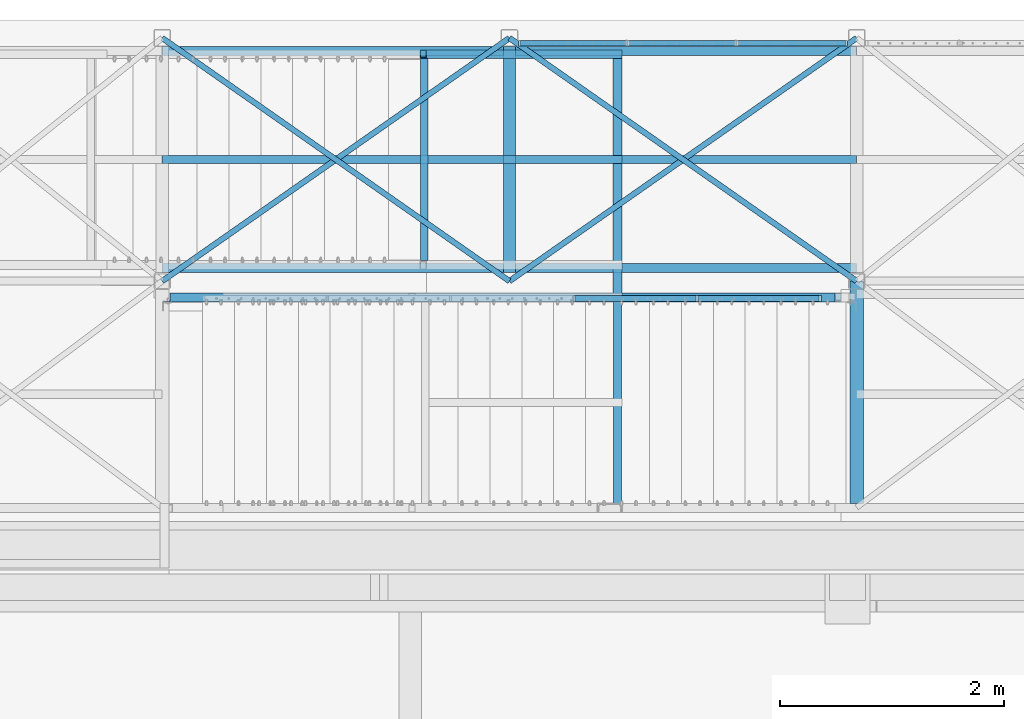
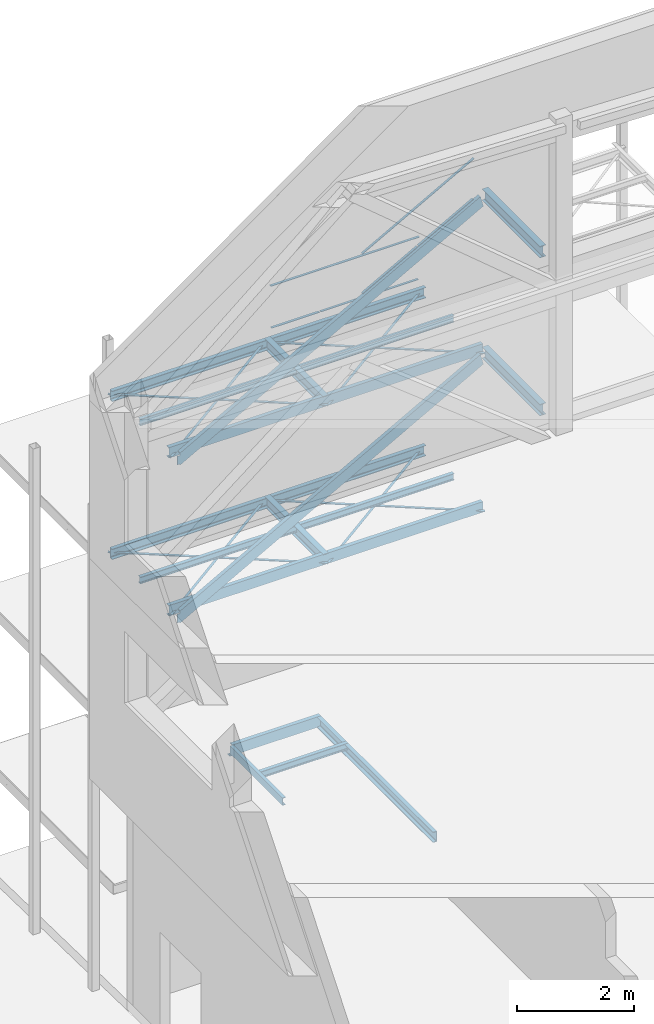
# One storey, part 32 of 78: 28 beams, 4 members, 30 elements without a shape of their own.
"""IFC2X3 building model written with IfcOpenShell, lengths in millimetres."""

from ifc_helpers import new_model, si_unit, frame, origin_with_axes, origin_2d_with_axis, place, context, subcontext, project, spatial, polyline, rectangle, i_section, l_section, u_section, outline, extrude, boolean, clip, halfspace, material, type_object, element, aggregate, save


model = new_model("IFC2X3")

# Units and contexts
model_context = context("Model", 3, precision=1e-05, world=origin_with_axes())
body_context = subcontext(model_context, "Body", "Model", "MODEL_VIEW")
ifc_project = project(units=[si_unit("LENGTHUNIT", "METRE", prefix="MILLI"), si_unit("AREAUNIT", "SQUARE_METRE"), si_unit("VOLUMEUNIT", "CUBIC_METRE"), si_unit("MASSUNIT", "GRAM", prefix="KILO"), si_unit("TIMEUNIT", "SECOND"), si_unit("PLANEANGLEUNIT", "RADIAN"), si_unit("SOLIDANGLEUNIT", "STERADIAN"), si_unit("THERMODYNAMICTEMPERATUREUNIT", "DEGREE_CELSIUS"), si_unit("LUMINOUSINTENSITYUNIT", "LUMEN")], contexts=[model_context])

# Site, building, storey
site_placement = place(None, origin_with_axes())
site = spatial("IfcSite", under=ifc_project, at=site_placement, Name="Site", CompositionType="ELEMENT")
building_placement = place(site_placement, origin_with_axes())
building = spatial("IfcBuilding", under=site, at=building_placement, Name="Undefined", CompositionType="ELEMENT")
storey_placement = place(building_placement, origin_with_axes())
storey = spatial("IfcBuildingStorey", under=building, at=storey_placement, Name="Undefined", CompositionType="ELEMENT", Elevation=0.0)

# Assembly, beam
assembly_1_placement = place(storey_placement, origin_with_axes())
assembly_1 = element("IfcElementAssembly", 1, at=assembly_1_placement, inside=storey, Name="POUTRE", AssemblyPlace="NOTDEFINED", PredefinedType="RIGID_FRAME")
ifc_material_1 = material(Name="STEEL/S275JR")
beam_type_1 = type_object("IfcBeamType", Name="UPN220", PredefinedType="NOTDEFINED")
beam_1_placement = place(assembly_1_placement, frame((-636.429999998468, 32733.0000000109, 148365.040000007), z_axis=(0.0, 0.0, 1.0), x_axis=(0.0, -1.0, 0.0)))
beam_1 = element("IfcBeam", 2, at=beam_1_placement, type_object=beam_type_1, material=ifc_material_1, Name="POUTRE", ObjectType="UPN220", context=body_context, shape_type="SweptSolid", body=[
    extrude(u_section(Depth=220.0, FlangeWidth=80.0, WebThickness=9.0, FlangeThickness=12.5, FilletRadius=12.5, EdgeRadius=6.5, FlangeSlope=0.0798299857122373, at=origin_2d_with_axis()), frame((3970.00000005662, 0.0, 0.0), z_axis=(-1.0, 0.0, 0.0), x_axis=(0.0, -1.0, 0.0)), (0.0, 0.0, 1.0), 3970.0),
])
aggregate(assembly_1, [beam_1])

assembly_2_placement = place(storey_placement, origin_with_axes())
assembly_2 = element("IfcElementAssembly", 3, at=assembly_2_placement, inside=storey, AssemblyPlace="NOTDEFINED", PredefinedType="RIGID_FRAME")
ifc_material_2 = material(Name="STEEL/S235JR")
beam_2_placement = place(assembly_2_placement, frame((-596.430000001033, 32773.0000000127, 148365.039999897), z_axis=(0.0, 0.0, 1.0), x_axis=(-1.0, 0.0, 0.0)))
beam_2 = element("IfcBeam", 4, at=beam_2_placement, type_object=beam_type_1, material=ifc_material_2, Name="LIMON", ObjectType="UPN220", context=body_context, shape_type="Clipping", body=[
    clip(extrude(u_section(Depth=220.0, FlangeWidth=80.0, WebThickness=9.0, FlangeThickness=12.5, FilletRadius=12.5, EdgeRadius=6.5, FlangeSlope=0.0798299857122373, at=origin_2d_with_axis()), frame((1804.05628894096, 0.0, 0.0), z_axis=(-1.0, 0.0, 0.0), x_axis=(0.0, -1.0, 0.0)), (0.0, 0.0, 1.0), 1804.06), halfspace(frame((1746.3949841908, 8.99308361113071e-09, 109.999999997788), z_axis=(-0.967635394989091, 0.0, -0.252352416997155), x_axis=(0.0, -1.0, 0.0)), True)),
])
aggregate(assembly_2, [beam_2])

assembly_3_placement = place(storey_placement, origin_with_axes())
assembly_3 = element("IfcElementAssembly", 5, at=assembly_3_placement, inside=storey, Name="POUTRE", AssemblyPlace="NOTDEFINED", PredefinedType="RIGID_FRAME")
beam_3_placement = place(assembly_3_placement, frame((1498.57, 30863.0, 156560.04), z_axis=(0.0, 0.0, 1.0), x_axis=(-1.0, 0.0, 0.0)))
beam_3 = element("IfcBeam", 6, at=beam_3_placement, type_object=beam_type_1, material=ifc_material_1, Name="POUTRE", ObjectType="UPN220", context=body_context, shape_type="SweptSolid", body=[
    extrude(u_section(Depth=220.0, FlangeWidth=80.0, WebThickness=9.0, FlangeThickness=12.5, FilletRadius=12.5, EdgeRadius=6.5, FlangeSlope=0.0798299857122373, at=origin_2d_with_axis()), frame((6200.0, 0.0, 0.0), z_axis=(-1.0, 0.0, 0.0), x_axis=(0.0, -1.0, 0.0)), (0.0, 0.0, 1.0), 6200.0),
])
aggregate(assembly_3, [beam_3])

assembly_4_placement = place(storey_placement, origin_with_axes())
assembly_4 = element("IfcElementAssembly", 7, at=assembly_4_placement, inside=storey, Name="POUTRE", AssemblyPlace="NOTDEFINED", PredefinedType="RIGID_FRAME")
beam_4_placement = place(assembly_4_placement, frame((-1601.43, 32803.0, 156560.04), z_axis=(0.0, 0.0, 1.0), x_axis=(1.0, 0.0, 0.0)))
beam_4 = element("IfcBeam", 8, at=beam_4_placement, type_object=beam_type_1, material=ifc_material_1, Name="POUTRE", ObjectType="UPN220", context=body_context, shape_type="SweptSolid", body=[
    extrude(u_section(Depth=220.0, FlangeWidth=80.0, WebThickness=9.0, FlangeThickness=12.5, FilletRadius=12.5, EdgeRadius=6.5, FlangeSlope=0.0798299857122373, at=origin_2d_with_axis()), frame((3100.0, 0.0, 0.0), z_axis=(-1.0, 0.0, 0.0), x_axis=(0.0, -1.0, 0.0)), (0.0, 0.0, 1.0), 3100.0),
])
aggregate(assembly_4, [beam_4])

assembly_5_placement = place(storey_placement, origin_with_axes())
assembly_5 = element("IfcElementAssembly", 9, at=assembly_5_placement, inside=storey, Name="POUTRE", AssemblyPlace="NOTDEFINED", PredefinedType="RIGID_FRAME")
beam_5_placement = place(assembly_5_placement, frame((-4701.43, 32803.0, 156560.04), z_axis=(0.0, 0.0, 1.0), x_axis=(1.0, 0.0, 0.0)))
beam_5 = element("IfcBeam", 10, at=beam_5_placement, type_object=beam_type_1, material=ifc_material_1, Name="POUTRE", ObjectType="UPN220", context=body_context, shape_type="SweptSolid", body=[
    extrude(u_section(Depth=220.0, FlangeWidth=80.0, WebThickness=9.0, FlangeThickness=12.5, FilletRadius=12.5, EdgeRadius=6.5, FlangeSlope=0.0798299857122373, at=origin_2d_with_axis()), frame((3100.0, 0.0, 0.0), z_axis=(-1.0, 0.0, 0.0), x_axis=(0.0, -1.0, 0.0)), (0.0, 0.0, 1.0), 3100.0),
])
aggregate(assembly_5, [beam_5])

assembly_6_placement = place(storey_placement, origin_with_axes())
assembly_6 = element("IfcElementAssembly", 11, at=assembly_6_placement, inside=storey, Name="POUTRE", AssemblyPlace="NOTDEFINED", PredefinedType="RIGID_FRAME")
beam_6_placement = place(assembly_6_placement, frame((1498.57, 30863.0, 153260.04), z_axis=(0.0, 0.0, 1.0), x_axis=(-1.0, 0.0, 0.0)))
beam_6 = element("IfcBeam", 12, at=beam_6_placement, type_object=beam_type_1, material=ifc_material_1, Name="POUTRE", ObjectType="UPN220", context=body_context, shape_type="SweptSolid", body=[
    extrude(u_section(Depth=220.0, FlangeWidth=80.0, WebThickness=9.0, FlangeThickness=12.5, FilletRadius=12.5, EdgeRadius=6.5, FlangeSlope=0.0798299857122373, at=origin_2d_with_axis()), frame((6200.0, 0.0, 0.0), z_axis=(-1.0, 0.0, 0.0), x_axis=(0.0, -1.0, 0.0)), (0.0, 0.0, 1.0), 6200.0),
])
aggregate(assembly_6, [beam_6])

assembly_7_placement = place(storey_placement, origin_with_axes())
assembly_7 = element("IfcElementAssembly", 13, at=assembly_7_placement, inside=storey, Name="STAB", AssemblyPlace="NOTDEFINED", PredefinedType="RIGID_FRAME")
beam_7_placement = place(assembly_7_placement, frame((-1601.43, 32803.0, 153260.04), z_axis=(0.0, 0.0, 1.0), x_axis=(1.0, 0.0, 0.0)))
beam_7 = element("IfcBeam", 14, at=beam_7_placement, type_object=beam_type_1, material=ifc_material_1, Name="POUTRE", ObjectType="UPN220", context=body_context, shape_type="SweptSolid", body=[
    extrude(u_section(Depth=220.0, FlangeWidth=80.0, WebThickness=9.0, FlangeThickness=12.5, FilletRadius=12.5, EdgeRadius=6.5, FlangeSlope=0.0798299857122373, at=origin_2d_with_axis()), frame((3100.0, 0.0, 0.0), z_axis=(-1.0, 0.0, 0.0), x_axis=(0.0, -1.0, 0.0)), (0.0, 0.0, 1.0), 3100.0),
])
aggregate(assembly_7, [beam_7])

assembly_8_placement = place(storey_placement, origin_with_axes())
assembly_8 = element("IfcElementAssembly", 15, at=assembly_8_placement, inside=storey, Name="STAB", AssemblyPlace="NOTDEFINED", PredefinedType="RIGID_FRAME")
beam_8_placement = place(assembly_8_placement, frame((-4701.43, 32803.0, 153260.04), z_axis=(0.0, 0.0, 1.0), x_axis=(1.0, 0.0, 0.0)))
beam_8 = element("IfcBeam", 16, at=beam_8_placement, type_object=beam_type_1, material=ifc_material_1, Name="POUTRE", ObjectType="UPN220", context=body_context, shape_type="SweptSolid", body=[
    extrude(u_section(Depth=220.0, FlangeWidth=80.0, WebThickness=9.0, FlangeThickness=12.5, FilletRadius=12.5, EdgeRadius=6.5, FlangeSlope=0.0798299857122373, at=origin_2d_with_axis()), frame((3100.0, 0.0, 0.0), z_axis=(-1.0, 0.0, 0.0), x_axis=(0.0, -1.0, 0.0)), (0.0, 0.0, 1.0), 3100.0),
])
aggregate(assembly_8, [beam_8])

# Assembly, beams
assembly_9_placement = place(storey_placement, origin_with_axes())
assembly_9 = element("IfcElementAssembly", 17, at=assembly_9_placement, inside=storey, Name="MAIN_COURANTE", AssemblyPlace="NOTDEFINED", PredefinedType="RIGID_FRAME")
beam_type_2 = type_object("IfcBeamType", Name="PL10*50", PredefinedType="NOTDEFINED")
beam_9_placement = place(assembly_9_placement, frame((-1521.43, 32873.0, 156815.04), z_axis=(0.0, -1.0, 0.0), x_axis=(1.0, 0.0, 0.0)))
solid_1 = boolean("DIFFERENCE", boolean("DIFFERENCE", extrude(rectangle(XDim=20.0, YDim=50.0, at=origin_2d_with_axis()), frame((10.0000000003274, 885.0, -2.18278728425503e-10), z_axis=(0.0, -1.0, 0.0), x_axis=(1.0, 0.0, 0.0)), (0.0, 0.0, 1.0), 1190.0), halfspace(frame((10.0000000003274, 875.0, -2.18278728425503e-11), z_axis=(0.0, 1.0, 0.0), x_axis=(0.0, 0.0, -1.0)), False)), halfspace(frame((-999.999999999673, -305.0, -2.18278728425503e-10), z_axis=(0.0, 1.0, 0.0), x_axis=(0.0, 0.0, -1.0)), True))
solid_2 = boolean("DIFFERENCE", boolean("DIFFERENCE", extrude(rectangle(XDim=20.0, YDim=50.0, at=origin_2d_with_axis()), frame((983.333333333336, 885.0, 0.0), z_axis=(0.0, -1.0, 0.0), x_axis=(1.0, 0.0, 0.0)), (0.0, 0.0, 1.0), 1190.0), halfspace(frame((983.333333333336, 875.0, 0.0), z_axis=(0.0, 1.0, 0.0), x_axis=(0.0, 0.0, -1.0)), False)), halfspace(frame((-26.6666666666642, -305.0, 0.0), z_axis=(0.0, 1.0, 0.0), x_axis=(0.0, 0.0, -1.0)), True))
solid_3 = boolean("DIFFERENCE", boolean("DIFFERENCE", extrude(rectangle(XDim=20.0, YDim=50.0, at=origin_2d_with_axis()), frame((1956.66666666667, 885.0, 0.0), z_axis=(0.0, -1.0, 0.0), x_axis=(1.0, 0.0, 0.0)), (0.0, 0.0, 1.0), 1190.0), halfspace(frame((1956.66666666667, 875.0, 0.0), z_axis=(0.0, 1.0, 0.0), x_axis=(0.0, 0.0, -1.0)), False)), halfspace(frame((946.666666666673, -305.0, 0.0), z_axis=(0.0, 1.0, 0.0), x_axis=(0.0, 0.0, -1.0)), True))
solid_4 = boolean("DIFFERENCE", boolean("DIFFERENCE", extrude(rectangle(XDim=20.0, YDim=50.0, at=origin_2d_with_axis()), frame((2930.00000000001, 885.0, 0.0), z_axis=(0.0, -1.0, 0.0), x_axis=(1.0, 0.0, 0.0)), (0.0, 0.0, 1.0), 1190.0), halfspace(frame((2930.00000000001, 875.0, 0.0), z_axis=(0.0, 1.0, 0.0), x_axis=(0.0, 0.0, -1.0)), False)), halfspace(frame((1920.00000000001, -305.0, 0.0), z_axis=(0.0, 1.0, 0.0), x_axis=(0.0, 0.0, -1.0)), True))
beam_9 = element("IfcBeam", 18, at=beam_9_placement, type_object=beam_type_2, material=ifc_material_2, Name="LISSE", ObjectType="PL10*50", context=body_context, shape_type="CSG", body=[
    boolean("DIFFERENCE", boolean("DIFFERENCE", boolean("DIFFERENCE", boolean("DIFFERENCE", extrude(rectangle(XDim=10.0, YDim=50.0, at=origin_2d_with_axis()), frame((2940.00000000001, 0.0, 0.0), z_axis=(-1.0, 0.0, 0.0), x_axis=(0.0, -1.0, 0.0)), (0.0, 0.0, 1.0), 2940.0), solid_1), solid_2), solid_3), solid_4),
])
beam_10_placement = place(assembly_9_placement, frame((1418.57000000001, 32873.0, 157695.04), z_axis=(0.0, -1.0, 0.0), x_axis=(-1.0, 0.0, 0.0)))
beam_10 = element("IfcBeam", 19, at=beam_10_placement, type_object=beam_type_2, material=ifc_material_2, Name="MAIN_COURANTE", ObjectType="PL10*50", context=body_context, shape_type="SweptSolid", body=[
    extrude(rectangle(XDim=10.0, YDim=50.0, at=origin_2d_with_axis()), frame((2940.00000000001, 0.0, 0.0), z_axis=(-1.0, 0.0, 0.0), x_axis=(0.0, -1.0, 0.0)), (0.0, 0.0, 1.0), 2940.0),
])
aggregate(assembly_9, [beam_9, beam_10])

# Assembly, beam
assembly_10_placement = place(storey_placement, origin_with_axes())
assembly_10 = element("IfcElementAssembly", 20, at=assembly_10_placement, inside=storey, Name="STAB", AssemblyPlace="NOTDEFINED", PredefinedType="RIGID_FRAME")
beam_type_3 = type_object("IfcBeamType", Name="L50*5", PredefinedType="NOTDEFINED")
beam_11_placement = place(assembly_10_placement, frame((1498.57000000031, 30747.9999999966, 156505.04), z_axis=(0.0, 0.0, -1.0), x_axis=(-0.8192319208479, 0.573462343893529, 0.0)))
beam_11 = element("IfcBeam", 21, at=beam_11_placement, type_object=beam_type_3, material=ifc_material_2, Name="STAB", ObjectType="L50*5", context=body_context, shape_type="SweptSolid", body=[
    extrude(l_section(Depth=50.0, Width=50.0, Thickness=5.0, FilletRadius=7.0, EdgeRadius=3.5, at=origin_2d_with_axis()), frame((3784.03224088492, 4.20111971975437e-13, 0.0), z_axis=(-1.0, 0.0, 0.0), x_axis=(0.0, -1.0, 0.0)), (0.0, 0.0, 1.0), 3784.03),
])
aggregate(assembly_10, [beam_11])

assembly_11_placement = place(storey_placement, origin_with_axes())
assembly_11 = element("IfcElementAssembly", 22, at=assembly_11_placement, inside=storey, Name="STAB", AssemblyPlace="NOTDEFINED", PredefinedType="RIGID_FRAME")
beam_12_placement = place(assembly_11_placement, frame((1498.56999999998, 32918.0, 156505.04), z_axis=(0.0, 0.0, -1.0), x_axis=(-0.8192319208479, -0.573462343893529, 0.0)))
beam_12 = element("IfcBeam", 23, at=beam_12_placement, type_object=beam_type_3, material=ifc_material_2, Name="STAB", ObjectType="L50*5", context=body_context, shape_type="SweptSolid", body=[
    extrude(l_section(Depth=50.0, Width=50.0, Thickness=5.0, FilletRadius=7.0, EdgeRadius=3.5, at=origin_2d_with_axis()), frame((3784.03224088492, 4.20111971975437e-13, 0.0), z_axis=(-1.0, 0.0, 0.0), x_axis=(0.0, -1.0, 0.0)), (0.0, 0.0, 1.0), 3784.03),
])
aggregate(assembly_11, [beam_12])

assembly_12_placement = place(storey_placement, origin_with_axes())
assembly_12 = element("IfcElementAssembly", 24, at=assembly_12_placement, inside=storey, Name="STAB", AssemblyPlace="NOTDEFINED", PredefinedType="RIGID_FRAME")
beam_13_placement = place(assembly_12_placement, frame((-1601.42999999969, 30747.9999999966, 156505.04), z_axis=(0.0, 0.0, -1.0), x_axis=(-0.8192319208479, 0.573462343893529, 0.0)))
beam_13 = element("IfcBeam", 25, at=beam_13_placement, type_object=beam_type_3, material=ifc_material_2, Name="STAB", ObjectType="L50*5", context=body_context, shape_type="SweptSolid", body=[
    extrude(l_section(Depth=50.0, Width=50.0, Thickness=5.0, FilletRadius=7.0, EdgeRadius=3.5, at=origin_2d_with_axis()), frame((3784.03224088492, 4.20111971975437e-13, 0.0), z_axis=(-1.0, 0.0, 0.0), x_axis=(0.0, -1.0, 0.0)), (0.0, 0.0, 1.0), 3784.03),
])
aggregate(assembly_12, [beam_13])

assembly_13_placement = place(storey_placement, origin_with_axes())
assembly_13 = element("IfcElementAssembly", 26, at=assembly_13_placement, inside=storey, Name="STAB", AssemblyPlace="NOTDEFINED", PredefinedType="RIGID_FRAME")
beam_14_placement = place(assembly_13_placement, frame((-1601.43000000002, 32918.0, 156505.04), z_axis=(0.0, 0.0, -1.0), x_axis=(-0.8192319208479, -0.573462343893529, 0.0)))
beam_14 = element("IfcBeam", 27, at=beam_14_placement, type_object=beam_type_3, material=ifc_material_2, Name="STAB", ObjectType="L50*5", context=body_context, shape_type="SweptSolid", body=[
    extrude(l_section(Depth=50.0, Width=50.0, Thickness=5.0, FilletRadius=7.0, EdgeRadius=3.5, at=origin_2d_with_axis()), frame((3784.03224088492, 4.20111971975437e-13, 0.0), z_axis=(-1.0, 0.0, 0.0), x_axis=(0.0, -1.0, 0.0)), (0.0, 0.0, 1.0), 3784.03),
])
aggregate(assembly_13, [beam_14])

assembly_14_placement = place(storey_placement, origin_with_axes())
assembly_14 = element("IfcElementAssembly", 28, at=assembly_14_placement, inside=storey, Name="STAB", AssemblyPlace="NOTDEFINED", PredefinedType="RIGID_FRAME")
beam_15_placement = place(assembly_14_placement, frame((1498.57000000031, 30747.9999999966, 153205.04), z_axis=(0.0, 0.0, -1.0), x_axis=(-0.8192319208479, 0.573462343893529, 0.0)))
beam_15 = element("IfcBeam", 29, at=beam_15_placement, type_object=beam_type_3, material=ifc_material_2, Name="STAB", ObjectType="L50*5", context=body_context, shape_type="SweptSolid", body=[
    extrude(l_section(Depth=50.0, Width=50.0, Thickness=5.0, FilletRadius=7.0, EdgeRadius=3.5, at=origin_2d_with_axis()), frame((3784.03224088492, 4.20111971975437e-13, 0.0), z_axis=(-1.0, 0.0, 0.0), x_axis=(0.0, -1.0, 0.0)), (0.0, 0.0, 1.0), 3784.03),
])
aggregate(assembly_14, [beam_15])

assembly_15_placement = place(storey_placement, origin_with_axes())
assembly_15 = element("IfcElementAssembly", 30, at=assembly_15_placement, inside=storey, Name="STAB", AssemblyPlace="NOTDEFINED", PredefinedType="RIGID_FRAME")
beam_16_placement = place(assembly_15_placement, frame((1498.56999999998, 32918.0, 153205.04), z_axis=(0.0, 0.0, -1.0), x_axis=(-0.8192319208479, -0.573462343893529, 0.0)))
beam_16 = element("IfcBeam", 31, at=beam_16_placement, type_object=beam_type_3, material=ifc_material_2, Name="STAB", ObjectType="L50*5", context=body_context, shape_type="SweptSolid", body=[
    extrude(l_section(Depth=50.0, Width=50.0, Thickness=5.0, FilletRadius=7.0, EdgeRadius=3.5, at=origin_2d_with_axis()), frame((3784.03224088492, 4.20111971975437e-13, 0.0), z_axis=(-1.0, 0.0, 0.0), x_axis=(0.0, -1.0, 0.0)), (0.0, 0.0, 1.0), 3784.03),
])
aggregate(assembly_15, [beam_16])

assembly_16_placement = place(storey_placement, origin_with_axes())
assembly_16 = element("IfcElementAssembly", 32, at=assembly_16_placement, inside=storey, Name="STAB", AssemblyPlace="NOTDEFINED", PredefinedType="RIGID_FRAME")
beam_17_placement = place(assembly_16_placement, frame((-1601.42999999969, 30747.9999999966, 153205.04), z_axis=(0.0, 0.0, -1.0), x_axis=(-0.8192319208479, 0.573462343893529, 0.0)))
beam_17 = element("IfcBeam", 33, at=beam_17_placement, type_object=beam_type_3, material=ifc_material_2, Name="STAB", ObjectType="L50*5", context=body_context, shape_type="SweptSolid", body=[
    extrude(l_section(Depth=50.0, Width=50.0, Thickness=5.0, FilletRadius=7.0, EdgeRadius=3.5, at=origin_2d_with_axis()), frame((3784.03224088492, 4.20111971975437e-13, 0.0), z_axis=(-1.0, 0.0, 0.0), x_axis=(0.0, -1.0, 0.0)), (0.0, 0.0, 1.0), 3784.03),
])
aggregate(assembly_16, [beam_17])

assembly_17_placement = place(storey_placement, origin_with_axes())
assembly_17 = element("IfcElementAssembly", 34, at=assembly_17_placement, inside=storey, Name="STAB", AssemblyPlace="NOTDEFINED", PredefinedType="RIGID_FRAME")
beam_18_placement = place(assembly_17_placement, frame((-1601.43000000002, 32918.0, 153205.04), z_axis=(0.0, 0.0, -1.0), x_axis=(-0.8192319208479, -0.573462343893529, 0.0)))
beam_18 = element("IfcBeam", 35, at=beam_18_placement, type_object=beam_type_3, material=ifc_material_2, Name="STAB", ObjectType="L50*5", context=body_context, shape_type="SweptSolid", body=[
    extrude(l_section(Depth=50.0, Width=50.0, Thickness=5.0, FilletRadius=7.0, EdgeRadius=3.5, at=origin_2d_with_axis()), frame((3784.03224088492, 4.20111971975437e-13, 0.0), z_axis=(-1.0, 0.0, 0.0), x_axis=(0.0, -1.0, 0.0)), (0.0, 0.0, 1.0), 3784.03),
])
aggregate(assembly_17, [beam_18])

assembly_18_placement = place(storey_placement, origin_with_axes())
assembly_18 = element("IfcElementAssembly", 36, at=assembly_18_placement, inside=storey, Name="POUTRE", AssemblyPlace="NOTDEFINED", PredefinedType="RIGID_FRAME")
beam_type_4 = type_object("IfcBeamType", Name="IPE140", PredefinedType="NOTDEFINED")
beam_19_placement = place(assembly_18_placement, frame((-2343.9299999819, 31833.0, 148405.039999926), z_axis=(0.0, 0.0, -1.0), x_axis=(1.0, 0.0, 0.0)))
beam_19 = element("IfcBeam", 37, at=beam_19_placement, type_object=beam_type_4, material=ifc_material_1, Name="POUTRE", ObjectType="IPE140", context=body_context, shape_type="SweptSolid", body=[
    extrude(i_section(OverallWidth=73.0, OverallDepth=140.0, WebThickness=4.699999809, FlangeThickness=6.900000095, FilletRadius=7.0, at=origin_2d_with_axis()), frame((1747.4999999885, 0.0, 0.0), z_axis=(-1.0, 0.0, 0.0), x_axis=(0.0, -1.0, 0.0)), (0.0, 0.0, 1.0), 1747.5),
])
aggregate(assembly_18, [beam_19])

assembly_19_placement = place(storey_placement, origin_with_axes())
assembly_19 = element("IfcElementAssembly", 38, at=assembly_19_placement, inside=storey, Name="POUTRE", AssemblyPlace="NOTDEFINED", PredefinedType="RIGID_FRAME")
beam_20_placement = place(assembly_19_placement, frame((-1601.43, 31833.0, 156600.04), z_axis=(0.0, 0.0, 1.0), x_axis=(-1.0, 0.0, 0.0)))
beam_20 = element("IfcBeam", 39, at=beam_20_placement, type_object=beam_type_4, material=ifc_material_1, Name="POUTRE", ObjectType="IPE140", context=body_context, shape_type="SweptSolid", body=[
    extrude(i_section(OverallWidth=73.0, OverallDepth=140.0, WebThickness=4.699999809, FlangeThickness=6.900000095, FilletRadius=7.0, at=origin_2d_with_axis()), frame((3100.0, 0.0, 0.0), z_axis=(-1.0, 0.0, 0.0), x_axis=(0.0, -1.0, 0.0)), (0.0, 0.0, 1.0), 3100.0),
])
aggregate(assembly_19, [beam_20])

assembly_20_placement = place(storey_placement, origin_with_axes())
assembly_20 = element("IfcElementAssembly", 40, at=assembly_20_placement, inside=storey, Name="POUTRE", AssemblyPlace="NOTDEFINED", PredefinedType="RIGID_FRAME")
beam_21_placement = place(assembly_20_placement, frame((1498.57, 31833.0, 156600.04), z_axis=(0.0, 0.0, 1.0), x_axis=(-1.0, 0.0, 0.0)))
beam_21 = element("IfcBeam", 41, at=beam_21_placement, type_object=beam_type_4, material=ifc_material_1, Name="POUTRE", ObjectType="IPE140", context=body_context, shape_type="SweptSolid", body=[
    extrude(i_section(OverallWidth=73.0, OverallDepth=140.0, WebThickness=4.699999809, FlangeThickness=6.900000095, FilletRadius=7.0, at=origin_2d_with_axis()), frame((3100.0, 0.0, 0.0), z_axis=(-1.0, 0.0, 0.0), x_axis=(0.0, -1.0, 0.0)), (0.0, 0.0, 1.0), 3100.0),
])
aggregate(assembly_20, [beam_21])

assembly_21_placement = place(storey_placement, origin_with_axes())
assembly_21 = element("IfcElementAssembly", 42, at=assembly_21_placement, inside=storey, Name="POUTRE", AssemblyPlace="NOTDEFINED", PredefinedType="RIGID_FRAME")
beam_22_placement = place(assembly_21_placement, frame((-1601.43, 31833.0, 153300.04), z_axis=(0.0, 0.0, 1.0), x_axis=(-1.0, 0.0, 0.0)))
beam_22 = element("IfcBeam", 43, at=beam_22_placement, type_object=beam_type_4, material=ifc_material_1, Name="POUTRE", ObjectType="IPE140", context=body_context, shape_type="SweptSolid", body=[
    extrude(i_section(OverallWidth=73.0, OverallDepth=140.0, WebThickness=4.699999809, FlangeThickness=6.900000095, FilletRadius=7.0, at=origin_2d_with_axis()), frame((3100.0, 0.0, 0.0), z_axis=(-1.0, 0.0, 0.0), x_axis=(0.0, -1.0, 0.0)), (0.0, 0.0, 1.0), 3100.0),
])
aggregate(assembly_21, [beam_22])

assembly_22_placement = place(storey_placement, origin_with_axes())
assembly_22 = element("IfcElementAssembly", 44, at=assembly_22_placement, inside=storey, Name="POUTRE", AssemblyPlace="NOTDEFINED", PredefinedType="RIGID_FRAME")
beam_23_placement = place(assembly_22_placement, frame((1498.57, 31833.0, 153300.04), z_axis=(0.0, 0.0, 1.0), x_axis=(-1.0, 0.0, 0.0)))
beam_23 = element("IfcBeam", 45, at=beam_23_placement, type_object=beam_type_4, material=ifc_material_1, Name="POUTRE", ObjectType="IPE140", context=body_context, shape_type="SweptSolid", body=[
    extrude(i_section(OverallWidth=73.0, OverallDepth=140.0, WebThickness=4.699999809, FlangeThickness=6.900000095, FilletRadius=7.0, at=origin_2d_with_axis()), frame((3100.0, 0.0, 0.0), z_axis=(-1.0, 0.0, 0.0), x_axis=(0.0, -1.0, 0.0)), (0.0, 0.0, 1.0), 3100.0),
])
aggregate(assembly_22, [beam_23])

# Assembly, members
assembly_23_placement = place(storey_placement, origin_with_axes())
assembly_23 = element("IfcElementAssembly", 46, at=assembly_23_placement, inside=storey, Name="MAIN_COURANTE", AssemblyPlace="NOTDEFINED", PredefinedType="RIGID_FRAME")
member_type_1 = type_object("IfcMemberType", Name="PL10*50", PredefinedType="NOTDEFINED")
member_1_placement = place(assembly_23_placement, frame((-1027.00571560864, 30592.9999997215, 158744.532815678), z_axis=(0.0, -1.0, 0.0), x_axis=(0.875241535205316, 0.0, 0.483686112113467)))
solid_5 = boolean("DIFFERENCE", boolean("DIFFERENCE", extrude(rectangle(XDim=20.0, YDim=50.0, at=origin_2d_with_axis()), frame((404.923975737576, 732.719574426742, -3.63797880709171e-12), z_axis=(-0.483686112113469, -0.875241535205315, 0.0), x_axis=(0.875241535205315, -0.48368611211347, 0.0)), (0.0, 0.0, 1.0), 900.0), halfspace(frame((402.160818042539, 722.719574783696, -3.63797880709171e-12), z_axis=(0.0, 1.0, 0.0), x_axis=(0.0, 0.0, -1.0)), False)), halfspace(frame((-25.9724726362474, -46.997807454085, -25.0000000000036), z_axis=(0.0, 1.0, 0.0), x_axis=(1.0, 0.0, 0.0)), True))
solid_6 = boolean("DIFFERENCE", boolean("DIFFERENCE", extrude(rectangle(XDim=20.0, YDim=50.0, at=origin_2d_with_axis()), frame((1661.71990663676, 732.719574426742, -3.63797880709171e-12), z_axis=(-0.483686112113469, -0.875241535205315, 0.0), x_axis=(0.875241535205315, -0.48368611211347, 0.0)), (0.0, 0.0, 1.0), 900.0), halfspace(frame((1658.95674886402, 722.719574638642, -3.63797880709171e-12), z_axis=(0.0, 1.0, 0.0), x_axis=(0.0, 0.0, -1.0)), False)), halfspace(frame((1230.8234582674, -46.997807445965, -25.0000000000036), z_axis=(0.0, 1.0, 0.0), x_axis=(1.0, 0.0, 0.0)), True))
solid_7 = boolean("DIFFERENCE", extrude(rectangle(XDim=20.0, YDim=50.0, at=origin_2d_with_axis()), frame((2918.51583753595, 732.719574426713, -3.63797880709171e-12), z_axis=(-0.483686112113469, -0.875241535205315, 0.0), x_axis=(0.875241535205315, -0.48368611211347, 0.0)), (0.0, 0.0, 1.0), 900.0), halfspace(frame((2487.61938917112, -46.9978074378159, -25.0000000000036), z_axis=(0.0, 1.0, 0.0), x_axis=(1.0, 0.0, 0.0)), True))
member_1 = element("IfcMember", 47, at=member_1_placement, type_object=member_type_1, material=ifc_material_2, Name="LISSE", ObjectType="PL10*50", context=body_context, shape_type="CSG", body=[
    boolean("DIFFERENCE", boolean("DIFFERENCE", boolean("DIFFERENCE", boolean("DIFFERENCE", extrude(rectangle(XDim=10.0, YDim=50.0, at=origin_2d_with_axis()), frame((2525.01727932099, 0.0, -7.27595761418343e-12), z_axis=(-1.0, 0.0, 0.0), x_axis=(0.0, -1.0, 0.0)), (0.0, 0.0, 1.0), 2525.02), solid_5), solid_6), solid_7), halfspace(frame((2525.01727932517, -5.09608071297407e-08, -50.0000000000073), z_axis=(-0.875241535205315, 0.483686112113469, 0.0), x_axis=(0.48368611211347, 0.875241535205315, 0.0)), True)),
])
member_2_placement = place(assembly_23_placement, frame((1182.99428439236, 30592.9999997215, 160797.29860649), z_axis=(0.0, -1.0, 0.0), x_axis=(-0.875241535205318, 0.0, -0.483686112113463)))
member_2 = element("IfcMember", 48, at=member_2_placement, type_object=member_type_1, material=ifc_material_2, Name="MAIN_COURANTE", ObjectType="PL10*50", context=body_context, shape_type="Clipping", body=[
    clip(extrude(rectangle(XDim=10.0, YDim=50.0, at=origin_2d_with_axis()), frame((2525.01727932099, 0.0, -7.27595761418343e-12), z_axis=(-1.0, 0.0, 0.0), x_axis=(0.0, -1.0, 0.0)), (0.0, 0.0, 1.0), 2532.08), halfspace(frame((0.0, 0.0, -50.0), z_axis=(0.875241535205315, -0.48368611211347, 0.0), x_axis=(-0.483686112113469, -0.875241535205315, 0.0)), True)),
])
aggregate(assembly_23, [member_1, member_2])

# Assembly, member
assembly_24_placement = place(storey_placement, origin_with_axes())
assembly_24 = element("IfcElementAssembly", 49, at=assembly_24_placement, inside=storey, AssemblyPlace="NOTDEFINED", PredefinedType="RIGID_FRAME")
member_type_2 = type_object("IfcMemberType", Name="UPN220", PredefinedType="NOTDEFINED")
member_3_placement = place(assembly_24_placement, frame((1357.48975823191, 30602.99999982, 156573.763431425), z_axis=(-0.48368611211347, 0.0, 0.875241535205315), x_axis=(-0.875241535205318, 0.0, -0.483686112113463)))
member_3 = element("IfcMember", 50, at=member_3_placement, type_object=member_type_2, material=ifc_material_2, Name="LIMON", ObjectType="UPN220", context=body_context, shape_type="CSG", body=[
    boolean("DIFFERENCE", boolean("DIFFERENCE", boolean("DIFFERENCE", boolean("DIFFERENCE", extrude(u_section(Depth=220.0, FlangeWidth=80.0, WebThickness=9.0, FlangeThickness=12.5, FilletRadius=12.5, EdgeRadius=6.5, FlangeSlope=0.0798299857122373, at=origin_2d_with_axis()), frame((7032.45614258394, 0.0, 3.90379736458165e-13), z_axis=(-1.0, 0.0, 0.0), x_axis=(0.0, -1.0, 0.0)), (0.0, 0.0, 1.0), 7128.94), extrude(outline(polyline([(0.0, 0.0), (66.9000000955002, 0.0), (66.9000000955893, 59.5368424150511), (1.2475846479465, 23.2552443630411), (0.0, 0.0)])), frame((6864.3153591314, -50.0000000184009, 99.0019028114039), z_axis=(0.0, 1.0, 0.0), x_axis=(-0.875241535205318, 0.0, -0.483686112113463)), (0.0, 0.0, 1.0), 100.0)), extrude(outline(polyline([(0.0, 0.0), (66.9000000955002, 0.0), (66.9000000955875, 31.4223441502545), (1.2475846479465, 67.7039422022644), (0.0, 0.0)])), frame((6951.57233339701, 49.99999998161, -58.8916694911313), z_axis=(0.0, -1.0, 0.0), x_axis=(-0.875241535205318, 0.0, -0.483686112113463)), (0.0, 0.0, 1.0), 100.0)), halfspace(frame((5196.61631635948, 1.20417098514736e-09, 3096.06845890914), z_axis=(0.875241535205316, 0.0, 0.483686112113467), x_axis=(0.0, 1.0, 0.0)), False)), halfspace(frame((-1.64160519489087e-06, -39.9999999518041, 109.99999989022), z_axis=(-0.968308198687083, 0.0, -0.249758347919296), x_axis=(0.0, -1.0, 0.0)), False)),
])
aggregate(assembly_24, [member_3])

assembly_25_placement = place(storey_placement, origin_with_axes())
assembly_25 = element("IfcElementAssembly", 51, at=assembly_25_placement, inside=storey, AssemblyPlace="NOTDEFINED", PredefinedType="RIGID_FRAME")
member_4_placement = place(assembly_25_placement, frame((1357.48975827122, 30602.9999998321, 159873.763431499), z_axis=(-0.48368611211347, 0.0, 0.875241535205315), x_axis=(-0.875241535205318, 0.0, -0.483686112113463)))
member_4 = element("IfcMember", 52, at=member_4_placement, type_object=member_type_2, material=ifc_material_2, Name="LIMON", ObjectType="UPN220", context=body_context, shape_type="CSG", body=[
    boolean("DIFFERENCE", boolean("DIFFERENCE", boolean("DIFFERENCE", boolean("DIFFERENCE", extrude(u_section(Depth=220.0, FlangeWidth=80.0, WebThickness=9.0, FlangeThickness=12.5, FilletRadius=12.5, EdgeRadius=6.5, FlangeSlope=0.0798299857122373, at=origin_2d_with_axis()), frame((7032.45614258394, 0.0, 3.90379736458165e-13), z_axis=(-1.0, 0.0, 0.0), x_axis=(0.0, -1.0, 0.0)), (0.0, 0.0, 1.0), 7128.94), extrude(outline(polyline([(0.0, 0.0), (66.9000000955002, 0.0), (66.9000000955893, 59.5368424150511), (1.2475846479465, 23.2552443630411), (0.0, 0.0)])), frame((6864.3153591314, -50.0000000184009, 99.0019028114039), z_axis=(0.0, 1.0, 0.0), x_axis=(-0.875241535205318, 0.0, -0.483686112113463)), (0.0, 0.0, 1.0), 100.0)), extrude(outline(polyline([(0.0, 0.0), (66.9000000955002, 0.0), (66.9000000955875, 31.4223441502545), (1.2475846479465, 67.7039422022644), (0.0, 0.0)])), frame((6951.57233339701, 49.99999998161, -58.8916694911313), z_axis=(0.0, -1.0, 0.0), x_axis=(-0.875241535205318, 0.0, -0.483686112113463)), (0.0, 0.0, 1.0), 100.0)), halfspace(frame((5196.61631635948, 1.20417098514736e-09, 3096.06845890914), z_axis=(0.875241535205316, 0.0, 0.483686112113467), x_axis=(0.0, 1.0, 0.0)), False)), halfspace(frame((-1.64160519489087e-06, -39.9999999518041, 109.99999989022), z_axis=(-0.968308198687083, 0.0, -0.249758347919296), x_axis=(0.0, -1.0, 0.0)), False)),
])
aggregate(assembly_25, [member_4])

# Assembly, beam
assembly_26_placement = place(storey_placement, origin_with_axes())
assembly_26 = element("IfcElementAssembly", 53, at=assembly_26_placement, inside=storey, Name="POUTRE", AssemblyPlace="NOTDEFINED", PredefinedType="RIGID_FRAME")
beam_type_5 = type_object("IfcBeamType", Name="UPN160", PredefinedType="NOTDEFINED")
beam_24_placement = place(assembly_26_placement, frame((-2361.42999998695, 32732.9999999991, 148395.039999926), z_axis=(0.0, 0.0, -1.0), x_axis=(0.0, -1.0, 0.0)))
beam_24 = element("IfcBeam", 54, at=beam_24_placement, type_object=beam_type_5, material=ifc_material_1, Name="POUTRE", ObjectType="UPN160", context=body_context, shape_type="SweptSolid", body=[
    extrude(u_section(Depth=160.0, FlangeWidth=65.0, WebThickness=7.5, FlangeThickness=10.5, FilletRadius=10.5, EdgeRadius=5.5, FlangeSlope=0.0798299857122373, at=origin_2d_with_axis()), frame((1800.0, 0.0, 0.0), z_axis=(-1.0, 0.0, 0.0), x_axis=(0.0, -1.0, 0.0)), (0.0, 0.0, 1.0), 1800.0),
])
aggregate(assembly_26, [beam_24])

assembly_27_placement = place(storey_placement, origin_with_axes())
assembly_27 = element("IfcElementAssembly", 55, at=assembly_27_placement, inside=storey, Name="CONSOLE", AssemblyPlace="NOTDEFINED", PredefinedType="RIGID_FRAME")
beam_type_6 = type_object("IfcBeamType", Name="IPE240", PredefinedType="NOTDEFINED")
beam_25_placement = place(assembly_27_placement, frame((1498.57, 30748.0, 159850.04), z_axis=(0.0, 0.0, 1.0), x_axis=(0.0, -1.0, 0.0)))
beam_25 = element("IfcBeam", 56, at=beam_25_placement, type_object=beam_type_6, material=ifc_material_1, Name="CONSOLE", ObjectType="IPE240", context=body_context, shape_type="SweptSolid", body=[
    extrude(i_section(OverallWidth=120.0, OverallDepth=240.0, WebThickness=6.199999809, FlangeThickness=9.800000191, FilletRadius=15.0, at=origin_2d_with_axis()), frame((1985.0, 0.0, 0.0), z_axis=(-1.0, 0.0, 0.0), x_axis=(0.0, -1.0, 0.0)), (0.0, 0.0, 1.0), 1985.0),
])
aggregate(assembly_27, [beam_25])

assembly_28_placement = place(storey_placement, origin_with_axes())
assembly_28 = element("IfcElementAssembly", 57, at=assembly_28_placement, inside=storey, Name="CONSOLE", AssemblyPlace="NOTDEFINED", PredefinedType="RIGID_FRAME")
beam_26_placement = place(assembly_28_placement, frame((1498.57, 30748.0, 156550.04), z_axis=(0.0, 0.0, 1.0), x_axis=(0.0, -1.0, 0.0)))
beam_26 = element("IfcBeam", 58, at=beam_26_placement, type_object=beam_type_6, material=ifc_material_1, Name="CONSOLE", ObjectType="IPE240", context=body_context, shape_type="SweptSolid", body=[
    extrude(i_section(OverallWidth=120.0, OverallDepth=240.0, WebThickness=6.199999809, FlangeThickness=9.800000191, FilletRadius=15.0, at=origin_2d_with_axis()), frame((1985.0, 0.0, 0.0), z_axis=(-1.0, 0.0, 0.0), x_axis=(0.0, -1.0, 0.0)), (0.0, 0.0, 1.0), 1985.0),
])
aggregate(assembly_28, [beam_26])

assembly_29_placement = place(storey_placement, origin_with_axes())
assembly_29 = element("IfcElementAssembly", 59, at=assembly_29_placement, inside=storey, Name="POUTRE", AssemblyPlace="NOTDEFINED", PredefinedType="RIGID_FRAME")
beam_type_7 = type_object("IfcBeamType", Name="IPE220", PredefinedType="NOTDEFINED")
beam_27_placement = place(assembly_29_placement, frame((-1601.43, 32843.0, 156560.04), z_axis=(0.0, 0.0, 1.0), x_axis=(0.0, -1.0, 0.0)))
beam_27 = element("IfcBeam", 60, at=beam_27_placement, type_object=beam_type_7, material=ifc_material_1, Name="POUTRE", ObjectType="IPE220", context=body_context, shape_type="SweptSolid", body=[
    extrude(i_section(OverallWidth=110.0, OverallDepth=220.0, WebThickness=5.900000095, FlangeThickness=9.199999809, FilletRadius=12.0, at=origin_2d_with_axis()), frame((2020.0, 0.0, 0.0), z_axis=(-1.0, 0.0, 0.0), x_axis=(0.0, -1.0, 0.0)), (0.0, 0.0, 1.0), 2020.0),
])
aggregate(assembly_29, [beam_27])

assembly_30_placement = place(storey_placement, origin_with_axes())
assembly_30 = element("IfcElementAssembly", 61, at=assembly_30_placement, inside=storey, Name="POUTRE", AssemblyPlace="NOTDEFINED", PredefinedType="RIGID_FRAME")
beam_28_placement = place(assembly_30_placement, frame((-1601.43, 32843.0, 153260.04), z_axis=(0.0, 0.0, 1.0), x_axis=(0.0, -1.0, 0.0)))
beam_28 = element("IfcBeam", 62, at=beam_28_placement, type_object=beam_type_7, material=ifc_material_1, Name="POUTRE", ObjectType="IPE220", context=body_context, shape_type="SweptSolid", body=[
    extrude(i_section(OverallWidth=110.0, OverallDepth=220.0, WebThickness=5.900000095, FlangeThickness=9.199999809, FilletRadius=12.0, at=origin_2d_with_axis()), frame((2020.0, 0.0, 0.0), z_axis=(-1.0, 0.0, 0.0), x_axis=(0.0, -1.0, 0.0)), (0.0, 0.0, 1.0), 2020.0),
])
aggregate(assembly_30, [beam_28])

save(model, "model.ifc")
